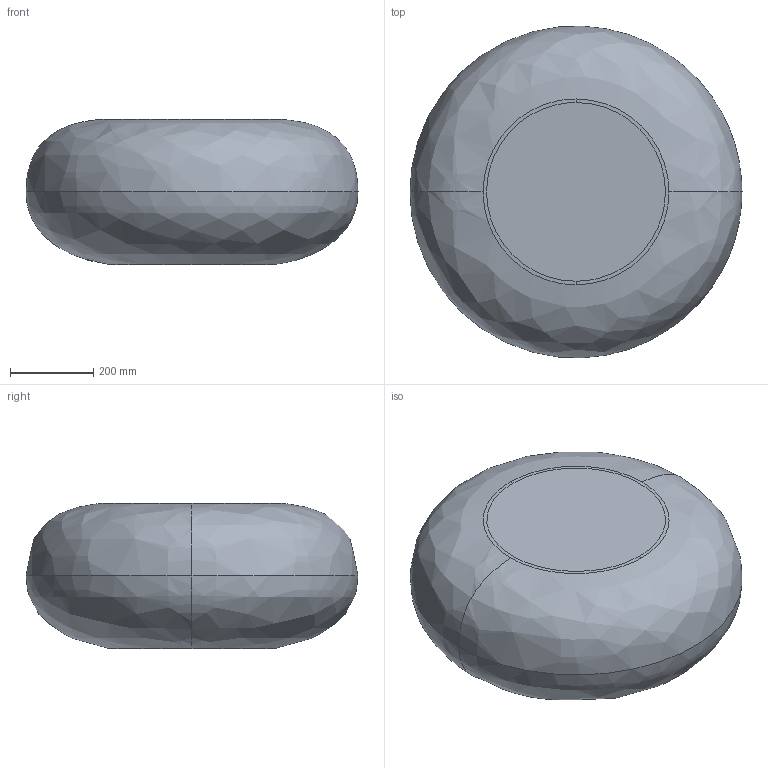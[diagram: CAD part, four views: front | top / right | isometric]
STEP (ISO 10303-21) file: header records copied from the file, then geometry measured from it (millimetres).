
FILE_DESCRIPTION(/* description */ (''),/* implementation_level */ '2;1');
FILE_NAME(/* name */ 'KINOSH~3',/* time_stamp */ '2019-07-08T10:21:36+09:00',/* author */ (''),/* organization */ (''),/* preprocessor_version */ 'ST-DEVELOPER v15',/* originating_system */ '',/* authorisation */ '');
FILE_SCHEMA (('AUTOMOTIVE_DESIGN'));
Length unit declared in the file: millimetre
Products named in the file (1): Document
Bounding box: 800 x 799.47 x 350 mm (x, y, z)
Volume: 144081752.5 mm3; surface area: 1469682.6 mm2
Topology: 1 solids, 1 shells, 10 faces, 22 edges, 14 vertices
Faces by surface type: bspline 8, plane 2
Entity records: 627 total; most frequent: CARTESIAN_POINT 486, ORIENTED_EDGE 44, EDGE_CURVE 22, VERTEX_POINT 14, ADVANCED_FACE 10, FACE_OUTER_BOUND 10, EDGE_LOOP 10, DIRECTION 6
